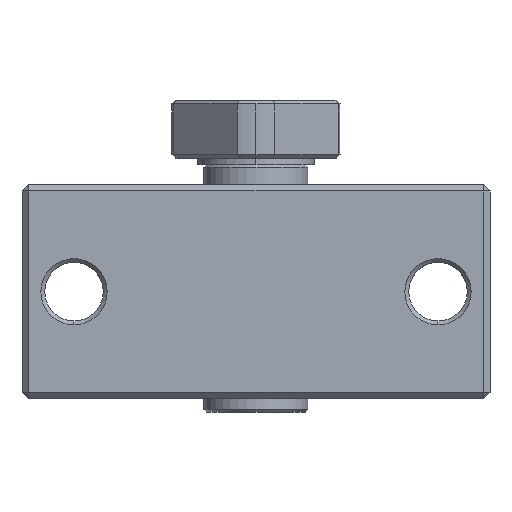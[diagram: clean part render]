
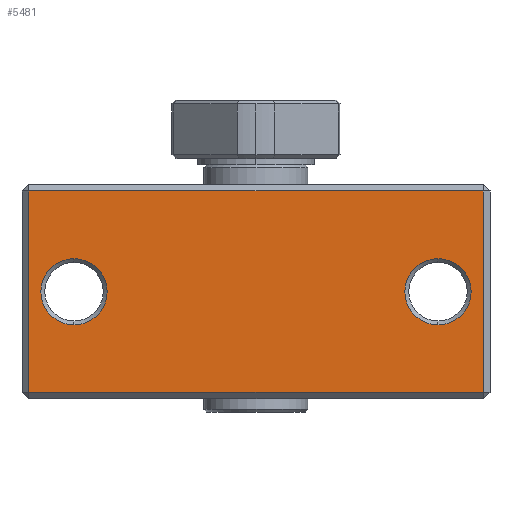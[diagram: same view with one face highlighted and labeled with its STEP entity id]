
A CAD part, front view. The second image highlights one B-rep face of the part: STEP entity #5481.
In plain terms, the highlighted planar face has unit normal (0, -1, 0).
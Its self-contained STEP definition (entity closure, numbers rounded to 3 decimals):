
#206 = PLANE ( 'NONE',  #1340 ) ;
#207 = CARTESIAN_POINT ( 'NONE',  ( 18., -11., 8.25 ) ) ;
#208 = DIRECTION ( 'NONE',  ( 0., 1., 0. ) ) ;
#209 = DIRECTION ( 'NONE',  ( -1., 0., 0. ) ) ;
#526 = AXIS2_PLACEMENT_3D ( 'NONE', #4127, #4128, #4129 ) ;
#543 = AXIS2_PLACEMENT_3D ( 'NONE', #4157, #4158, #4159 ) ;
#1332 = FACE_BOUND ( 'NONE', #1550, .T. ) ;
#1335 = FACE_BOUND ( 'NONE', #1549, .T. ) ;
#1338 = FACE_OUTER_BOUND ( 'NONE', #1548, .T. ) ;
#1340 = AXIS2_PLACEMENT_3D ( 'NONE', #207, #208, #209 ) ;
#1548 = EDGE_LOOP ( 'NONE', ( #4811, #4809, #4810, #4808 ) ) ;
#1549 = EDGE_LOOP ( 'NONE', ( #4812, #4813 ) ) ;
#1550 = EDGE_LOOP ( 'NONE', ( #4815, #4814 ) ) ;
#2179 = VECTOR ( 'NONE', #4217, 1000. ) ;
#2234 = AXIS2_PLACEMENT_3D ( 'NONE', #4340, #4344, #4345 ) ;
#2246 = VECTOR ( 'NONE', #4376, 1000. ) ;
#2249 = VECTOR ( 'NONE', #4382, 1000. ) ;
#2284 = DIRECTION ( 'NONE',  ( 0., 1., 0. ) ) ;
#2285 = DIRECTION ( 'NONE',  ( -1., 0., 0. ) ) ;
#2385 = LINE ( 'NONE', #2386, #2921 ) ;
#2386 = CARTESIAN_POINT ( 'NONE',  ( 17.5, -11., 8.25 ) ) ;
#2387 = DIRECTION ( 'NONE',  ( 0., 0., 1. ) ) ;
#2886 = AXIS2_PLACEMENT_3D ( 'NONE', #4586, #2284, #2285 ) ;
#2921 = VECTOR ( 'NONE', #2387, 1000. ) ;
#3101 = VERTEX_POINT ( 'NONE', #3377 ) ;
#3102 = VERTEX_POINT ( 'NONE', #3378 ) ;
#3113 = VERTEX_POINT ( 'NONE', #3389 ) ;
#3114 = VERTEX_POINT ( 'NONE', #3390 ) ;
#3147 = VERTEX_POINT ( 'NONE', #3423 ) ;
#3148 = VERTEX_POINT ( 'NONE', #3424 ) ;
#3149 = VERTEX_POINT ( 'NONE', #3425 ) ;
#3150 = VERTEX_POINT ( 'NONE', #3426 ) ;
#3377 = CARTESIAN_POINT ( 'NONE',  ( 14., -11., 2.55 ) ) ;
#3378 = CARTESIAN_POINT ( 'NONE',  ( 14., -11., -2.55 ) ) ;
#3389 = CARTESIAN_POINT ( 'NONE',  ( -14., -11., 2.55 ) ) ;
#3390 = CARTESIAN_POINT ( 'NONE',  ( -14., -11., -2.55 ) ) ;
#3423 = CARTESIAN_POINT ( 'NONE',  ( -17.5, -11., 7.75 ) ) ;
#3424 = CARTESIAN_POINT ( 'NONE',  ( -17.5, -11., -7.75 ) ) ;
#3425 = CARTESIAN_POINT ( 'NONE',  ( 17.5, -11., -7.75 ) ) ;
#3426 = CARTESIAN_POINT ( 'NONE',  ( 17.5, -11., 7.75 ) ) ;
#4127 = CARTESIAN_POINT ( 'NONE',  ( 14., -11., 0. ) ) ;
#4128 = DIRECTION ( 'NONE',  ( 0., 1., 0. ) ) ;
#4129 = DIRECTION ( 'NONE',  ( -1., 0., 0. ) ) ;
#4157 = CARTESIAN_POINT ( 'NONE',  ( -14., -11., 0. ) ) ;
#4158 = DIRECTION ( 'NONE',  ( 0., 1., 0. ) ) ;
#4159 = DIRECTION ( 'NONE',  ( -1., 0., 0. ) ) ;
#4215 = LINE ( 'NONE', #4216, #2179 ) ;
#4216 = CARTESIAN_POINT ( 'NONE',  ( 18., -11., -7.75 ) ) ;
#4217 = DIRECTION ( 'NONE',  ( 1., 0., 0. ) ) ;
#4340 = CARTESIAN_POINT ( 'NONE',  ( 14., -11., 0. ) ) ;
#4344 = DIRECTION ( 'NONE',  ( 0., 1., 0. ) ) ;
#4345 = DIRECTION ( 'NONE',  ( -1., 0., 0. ) ) ;
#4374 = LINE ( 'NONE', #4375, #2246 ) ;
#4375 = CARTESIAN_POINT ( 'NONE',  ( 18., -11., 7.75 ) ) ;
#4376 = DIRECTION ( 'NONE',  ( -1., 0., 0. ) ) ;
#4380 = LINE ( 'NONE', #4381, #2249 ) ;
#4381 = CARTESIAN_POINT ( 'NONE',  ( -17.5, -11., 8.25 ) ) ;
#4382 = DIRECTION ( 'NONE',  ( 0., 0., -1. ) ) ;
#4586 = CARTESIAN_POINT ( 'NONE',  ( -14., -11., 0. ) ) ;
#4808 = ORIENTED_EDGE ( 'NONE', *, *, #5004, .T. ) ;
#4809 = ORIENTED_EDGE ( 'NONE', *, *, #4952, .T. ) ;
#4810 = ORIENTED_EDGE ( 'NONE', *, *, #5099, .T. ) ;
#4811 = ORIENTED_EDGE ( 'NONE', *, *, #5006, .T. ) ;
#4812 = ORIENTED_EDGE ( 'NONE', *, *, #4923, .T. ) ;
#4813 = ORIENTED_EDGE ( 'NONE', *, *, #4994, .T. ) ;
#4814 = ORIENTED_EDGE ( 'NONE', *, *, #5068, .T. ) ;
#4815 = ORIENTED_EDGE ( 'NONE', *, *, #4933, .T. ) ;
#4923 = EDGE_CURVE ( 'NONE', #3102, #3101, #5564, .T. ) ;
#4933 = EDGE_CURVE ( 'NONE', #3114, #3113, #5570, .T. ) ;
#4952 = EDGE_CURVE ( 'NONE', #3148, #3149, #4215, .T. ) ;
#4994 = EDGE_CURVE ( 'NONE', #3101, #3102, #5605, .T. ) ;
#5004 = EDGE_CURVE ( 'NONE', #3150, #3147, #4374, .T. ) ;
#5006 = EDGE_CURVE ( 'NONE', #3147, #3148, #4380, .T. ) ;
#5068 = EDGE_CURVE ( 'NONE', #3113, #3114, #5642, .T. ) ;
#5099 = EDGE_CURVE ( 'NONE', #3149, #3150, #2385, .T. ) ;
#5481 = ADVANCED_FACE ( 'NONE', ( #1332, #1335, #1338 ), #206, .F. ) ;
#5564 = CIRCLE ( 'NONE', #526, 2.55 ) ;
#5570 = CIRCLE ( 'NONE', #543, 2.55 ) ;
#5605 = CIRCLE ( 'NONE', #2234, 2.55 ) ;
#5642 = CIRCLE ( 'NONE', #2886, 2.55 ) ;
